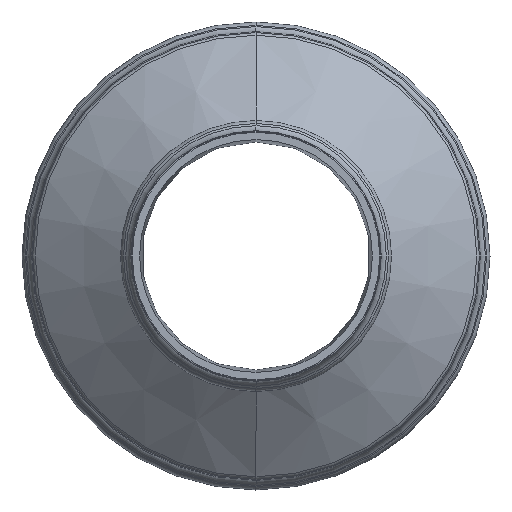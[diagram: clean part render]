
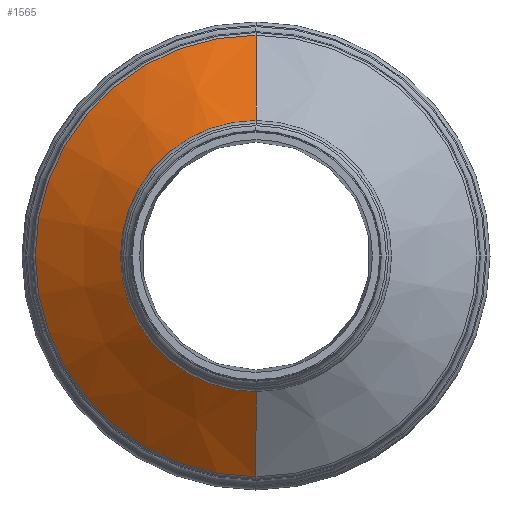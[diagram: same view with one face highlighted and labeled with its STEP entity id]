
A CAD part, left-side view. The second image highlights one B-rep face of the part: STEP entity #1565.
In plain terms, the highlighted conical face has half-angle 53.512 degrees and reference radius 60.235 mm.
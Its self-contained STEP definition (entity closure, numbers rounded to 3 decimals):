
#377=CARTESIAN_POINT('',(84.996,0.,0.));
#378=DIRECTION('',(1.,0.,0.));
#379=DIRECTION('',(0.,0.,-1.));
#380=AXIS2_PLACEMENT_3D('',#377,#378,#379);
#393=CARTESIAN_POINT('',(61.548,0.,0.));
#394=DIRECTION('',(-1.,0.,0.));
#395=DIRECTION('',(0.,0.,1.));
#396=AXIS2_PLACEMENT_3D('',#393,#394,#395);
#441=DIRECTION('',(0.595,0.,0.804));
#442=VECTOR('',#441,39.431);
#443=CARTESIAN_POINT('',(61.548,0.,44.384));
#444=LINE('',#443,#442);
#448=DIRECTION('',(0.595,0.,-0.804));
#449=VECTOR('',#448,39.431);
#450=CARTESIAN_POINT('',(61.548,0.,
-44.384));
#451=LINE('',#450,#449);
#1097=CARTESIAN_POINT('',(84.996,0.,
-76.086));
#1098=VERTEX_POINT('',#1097);
#1099=CARTESIAN_POINT('',(84.996,0.,
76.086));
#1100=VERTEX_POINT('',#1099);
#1101=CARTESIAN_POINT('',(61.548,0.,
-44.384));
#1102=VERTEX_POINT('',#1101);
#1103=CARTESIAN_POINT('',(61.548,0.,
44.384));
#1104=VERTEX_POINT('',#1103);
#1551=CARTESIAN_POINT('',(73.272,0.,0.));
#1552=DIRECTION('',(1.,0.,0.));
#1553=DIRECTION('',(0.,0.,-1.));
#1554=AXIS2_PLACEMENT_3D('',#1551,#1552,#1553);
#1555=CONICAL_SURFACE('',#1554,60.235,53.512);
#1557=ORIENTED_EDGE('',*,*,#1556,.T.);
#1559=ORIENTED_EDGE('',*,*,#1558,.T.);
#1560=ORIENTED_EDGE('',*,*,#1541,.T.);
#1562=ORIENTED_EDGE('',*,*,#1561,.F.);
#1563=EDGE_LOOP('',(#1557,#1559,#1560,#1562));
#1564=FACE_OUTER_BOUND('',#1563,.F.);
#381=CIRCLE('',#380,76.086);
#397=CIRCLE('',#396,44.384);
#1541=EDGE_CURVE('',#1098,#1100,#381,.T.);
#1556=EDGE_CURVE('',#1104,#1102,#397,.T.);
#1558=EDGE_CURVE('',#1102,#1098,#451,.T.);
#1561=EDGE_CURVE('',#1104,#1100,#444,.T.);
#1565=ADVANCED_FACE('',(#1564),#1555,.T.);
